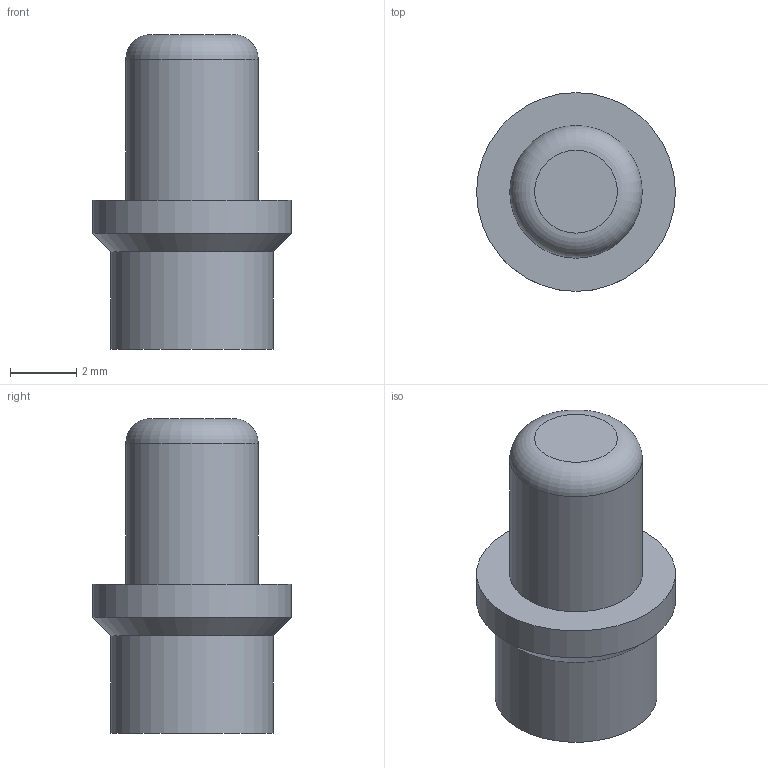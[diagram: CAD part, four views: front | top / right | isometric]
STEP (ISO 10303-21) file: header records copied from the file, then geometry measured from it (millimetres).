
FILE_DESCRIPTION(/* description */ ('STEP AP242','CAx-IF Rec.Pracs.---Representation and Presentation of Product Manufacturing Information (PMI)---4.0---2014-10-13','CAx-IF Rec.Pracs.---3D Tessellated Geometry---0.4---2014-09-14','2;1','CAx-IF Rec.Pracs.---User Defined Attributes---1.5---2016-08-15'),/* implementation_level */ '2;1');
FILE_NAME(/* name */ '69133ff589ea7250a0fac9b7',/* time_stamp */ '2025-11-11T13:53:58Z',/* author */ (''),/* organization */ (''),/* preprocessor_version */ 'ST-DEVELOPER v20',/* originating_system */ 'ONSHAPE BY PTC INC, 1.206',/* authorisation */ ' ');
FILE_SCHEMA (('AP242_MANAGED_MODEL_BASED_3D_ENGINEERING_MIM_LF { 1 0 10303 442 1 1 4 }'));
Length unit declared in the file: metre
Products named in the file (1): Part 1
Bounding box: 6 x 6 x 9.5 mm (x, y, z)
Volume: 158.2 mm3; surface area: 183.2 mm2
Topology: 1 solids, 1 shells, 8 faces, 13 edges, 8 vertices
Faces by surface type: cylinder 3, plane 3, cone 1, torus 1
Full cylindrical faces by diameter (mm): 4 x1, 4.9 x1, 6 x1
Entity records: 176 total; most frequent: DIRECTION 32, CARTESIAN_POINT 23, AXIS2_PLACEMENT_3D 16, ORIENTED_EDGE 14, EDGE_LOOP 14, FACE_BOUND 14, ADVANCED_FACE 8, EDGE_CURVE 7
